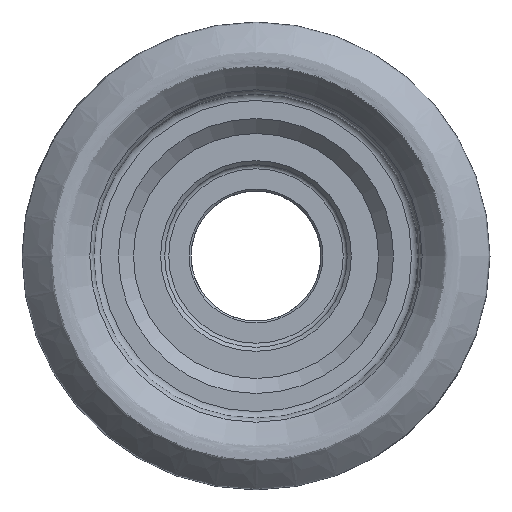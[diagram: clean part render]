
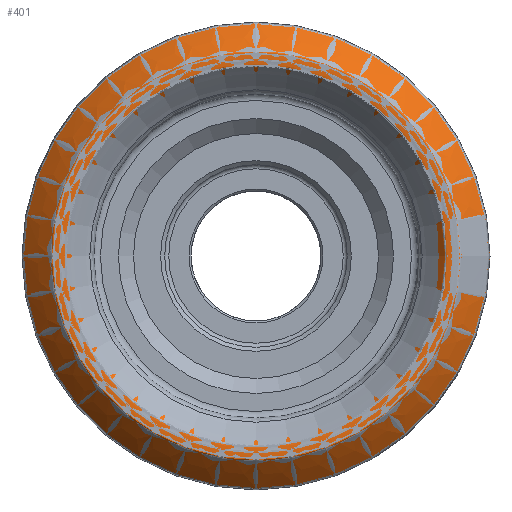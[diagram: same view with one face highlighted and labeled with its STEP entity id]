
A CAD part, left-side view. The second image highlights one B-rep face of the part: STEP entity #401.
In plain terms, the highlighted face is a revolution surface.
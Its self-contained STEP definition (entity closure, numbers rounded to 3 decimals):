
#78=SURFACE_OF_REVOLUTION('',#272,#85);
#85=AXIS1_PLACEMENT('',#1998,#1248);
#92=VERTEX_LOOP('',#804);
#272=B_SPLINE_CURVE_WITH_KNOTS('',3,(#1924,#1925,#1926,#1927,#1928,#1929,
#1930,#1931,#1932,#1933,#1934,#1935,#1936,#1937,#1938,#1939,#1940,#1941,
#1942,#1943,#1944,#1945,#1946,#1947,#1948,#1949,#1950,#1951,#1952,#1953,
#1954,#1955,#1956,#1957,#1958,#1959,#1960,#1961,#1962,#1963,#1964,#1965,
#1966,#1967,#1968,#1969,#1970,#1971,#1972,#1973,#1974,#1975,#1976,#1977,
#1978,#1979,#1980,#1981,#1982,#1983,#1984,#1985,#1986,#1987,#1988,#1989,
#1990,#1991,#1992,#1993,#1994,#1995,#1996,#1997),.UNSPECIFIED.,.T.,.F.,
(2,2,2,2,2,2,2,2,2,2,1,1,1,2,2,2,2,2,2,2,1,1,1,2,2,2,2,2,2,2,1,1,2,2,2,
2,2,2,2,2,2,2,2),(-0.063,0.,0.063,0.078,
0.094,0.109,0.125,0.141,
0.156,0.172,0.188,0.25,
0.313,0.328,0.344,0.359,
0.375,0.391,0.406,0.422,
0.438,0.5,0.563,0.578,
0.594,0.609,0.625,0.641,
0.656,0.672,0.688,0.75,
0.813,0.828,0.844,0.859,0.875,0.891,0.906,0.922,0.938,
1.,1.063),.UNSPECIFIED.);
#401=ADVANCED_FACE('',(#478),#78,.T.);
#478=FACE_BOUND('',#92,.T.);
#804=VERTEX_POINT('',#1923);
#1248=DIRECTION('',(-1.,0.,0.));
#1923=CARTESIAN_POINT('',(3.677,-43.416,0.));
#1924=CARTESIAN_POINT('',(2.867,-44.184,0.));
#1925=CARTESIAN_POINT('',(4.487,-42.648,0.));
#1926=CARTESIAN_POINT('',(5.299,-41.882,0.));
#1927=CARTESIAN_POINT('',(6.317,-40.928,0.));
#1928=CARTESIAN_POINT('',(6.521,-40.737,0.));
#1929=CARTESIAN_POINT('',(6.928,-40.355,0.));
#1930=CARTESIAN_POINT('',(7.134,-40.149,0.));
#1931=CARTESIAN_POINT('',(7.676,-40.013,0.));
#1932=CARTESIAN_POINT('',(7.96,-40.023,0.));
#1933=CARTESIAN_POINT('',(8.516,-39.987,0.));
#1934=CARTESIAN_POINT('',(8.794,-39.963,0.));
#1935=CARTESIAN_POINT('',(9.352,-39.956,0.));
#1936=CARTESIAN_POINT('',(9.631,-39.958,0.));
#1937=CARTESIAN_POINT('',(10.188,-39.963,0.));
#1938=CARTESIAN_POINT('',(10.481,-39.927,0.));
#1939=CARTESIAN_POINT('',(10.99,-40.153,0.));
#1940=CARTESIAN_POINT('',(11.159,-40.393,0.));
#1941=CARTESIAN_POINT('',(11.539,-40.797,0.));
#1942=CARTESIAN_POINT('',(12.488,-41.806,0.));
#1943=CARTESIAN_POINT('',(14.196,-43.622,0.));
#1944=CARTESIAN_POINT('',(15.905,-45.438,0.));
#1945=CARTESIAN_POINT('',(16.854,-46.447,0.));
#1946=CARTESIAN_POINT('',(17.233,-46.851,0.));
#1947=CARTESIAN_POINT('',(17.449,-47.03,0.));
#1948=CARTESIAN_POINT('',(17.749,-47.503,0.));
#1949=CARTESIAN_POINT('',(17.753,-47.795,0.));
#1950=CARTESIAN_POINT('',(17.787,-48.352,0.));
#1951=CARTESIAN_POINT('',(17.804,-48.63,0.));
#1952=CARTESIAN_POINT('',(17.824,-49.188,0.));
#1953=CARTESIAN_POINT('',(17.813,-49.467,0.));
#1954=CARTESIAN_POINT('',(17.801,-50.024,0.));
#1955=CARTESIAN_POINT('',(17.836,-50.317,0.));
#1956=CARTESIAN_POINT('',(17.611,-50.83,0.));
#1957=CARTESIAN_POINT('',(17.371,-51.006,0.));
#1958=CARTESIAN_POINT('',(16.966,-51.399,0.));
#1959=CARTESIAN_POINT('',(15.954,-52.381,0.));
#1960=CARTESIAN_POINT('',(14.132,-54.149,0.));
#1961=CARTESIAN_POINT('',(12.31,-55.918,0.));
#1962=CARTESIAN_POINT('',(11.298,-56.901,0.));
#1963=CARTESIAN_POINT('',(10.893,-57.294,0.));
#1964=CARTESIAN_POINT('',(10.707,-57.528,0.));
#1965=CARTESIAN_POINT('',(10.181,-57.714,0.));
#1966=CARTESIAN_POINT('',(9.888,-57.664,0.));
#1967=CARTESIAN_POINT('',(9.326,-57.651,0.));
#1968=CARTESIAN_POINT('',(9.044,-57.65,0.));
#1969=CARTESIAN_POINT('',(8.484,-57.606,0.));
#1970=CARTESIAN_POINT('',(8.205,-57.578,0.));
#1971=CARTESIAN_POINT('',(7.646,-57.522,0.));
#1972=CARTESIAN_POINT('',(7.353,-57.519,0.));
#1973=CARTESIAN_POINT('',(6.868,-57.242,0.));
#1974=CARTESIAN_POINT('',(6.693,-57.015,0.));
#1975=CARTESIAN_POINT('',(6.3,-56.624,0.));
#1976=CARTESIAN_POINT('',(5.318,-55.646,0.));
#1977=CARTESIAN_POINT('',(3.549,-53.887,0.));
#1978=CARTESIAN_POINT('',(1.976,-52.324,0.));
#1979=CARTESIAN_POINT('',(0.992,-51.348,0.));
#1980=CARTESIAN_POINT('',(0.795,-51.152,0.));
#1981=CARTESIAN_POINT('',(0.401,-50.762,0.));
#1982=CARTESIAN_POINT('',(0.166,-50.584,0.));
#1983=CARTESIAN_POINT('',(-0.039,-50.068,0.));
#1984=CARTESIAN_POINT('',(-0.003,-49.774,0.));
#1985=CARTESIAN_POINT('',(-0.004,-49.214,0.));
#1986=CARTESIAN_POINT('',(-0.006,-48.933,0.));
#1987=CARTESIAN_POINT('',(0.005,-48.374,0.));
#1988=CARTESIAN_POINT('',(0.03,-48.095,0.));
#1989=CARTESIAN_POINT('',(0.07,-47.537,0.));
#1990=CARTESIAN_POINT('',(0.058,-47.254,0.));
#1991=CARTESIAN_POINT('',(0.206,-46.709,0.));
#1992=CARTESIAN_POINT('',(0.429,-46.512,0.));
#1993=CARTESIAN_POINT('',(0.834,-46.124,0.));
#1994=CARTESIAN_POINT('',(1.036,-45.93,0.));
#1995=CARTESIAN_POINT('',(2.05,-44.961,0.));
#1996=CARTESIAN_POINT('',(2.867,-44.184,0.));
#1997=CARTESIAN_POINT('',(4.487,-42.648,0.));
#1998=CARTESIAN_POINT('',(0.,0.,0.));
